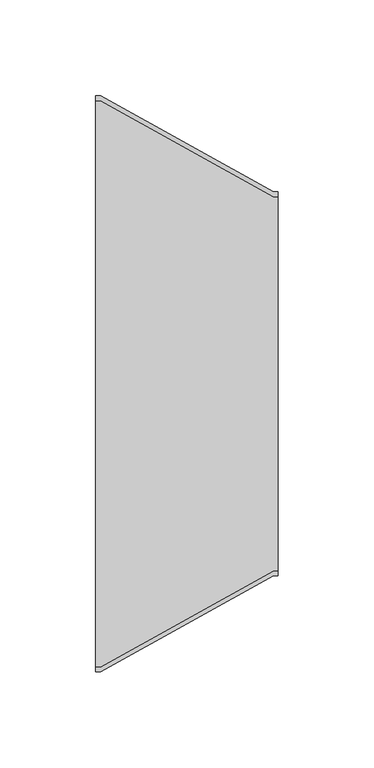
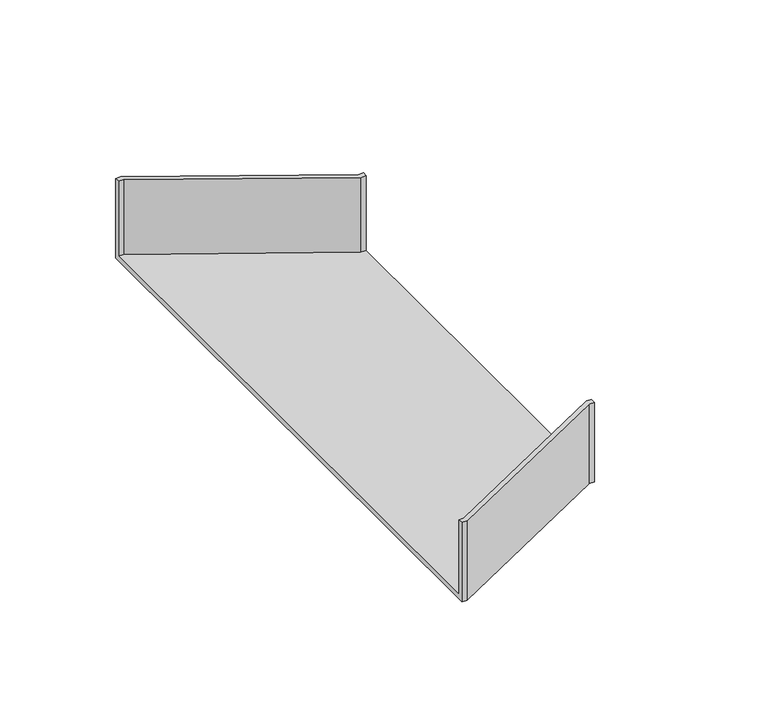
"""IFC4 building model written with IfcOpenShell, lengths in millimetres: cable carrier fitting geometry, BAKS_Reducer : RK(S/L/P)L_H42."""

from ifc_helpers import new_model, si_unit, origin, place, context, project, spatial, faceted_brep, source, transform, mapped, element, save


def cable_carrier_fitting_94ef316f(model_context):
    return source(origin(), model_context, "Body", "Brep", [
        faceted_brep([(0.0, -150.0, -21.0), (0.0, -150.0, 21.0), (0.0, -147.46, 21.0), (0.0, -147.46, -18.46), (0.0, 147.46, -18.46), (0.0, 147.46, 21.0), (0.0, 150.0, 21.0), (0.0, 150.0, -21.0), (95.0, -100.0, -21.0), (95.0, 100.0, -21.0), (95.0, 100.0, 21.0), (95.0, 97.46, 21.0), (95.0, 97.46, -18.46), (95.0, -97.46, -18.46), (95.0, -97.46, 21.0), (95.0, -100.0, 21.0), (2.5, -150.0, -21.0), (2.5, -150.0, 21.0), (92.5, -100.0, 21.0), (92.5, -97.46, 21.0), (2.5, -147.46, 21.0), (2.5, -147.46, -18.46), (92.5, -97.46, -18.46), (92.5, 97.46, -18.46), (2.5, 147.46, -18.46), (2.5, 147.46, 21.0), (92.5, 97.46, 21.0), (92.5, 100.0, 21.0), (2.5, 150.0, 21.0), (2.5, 150.0, -21.0), (92.5, 100.0, -21.0), (92.5, -100.0, -21.0)], [[[0, 1, 2, 3, 4, 5, 6, 7]], [[8, 9, 10, 11, 12, 13, 14, 15]], [[1, 0, 16, 17]], [[2, 1, 17, 18, 15, 14, 19, 20]], [[3, 2, 20, 21]], [[4, 3, 21, 22, 13, 12, 23, 24]], [[5, 4, 24, 25]], [[6, 5, 25, 26, 11, 10, 27, 28]], [[7, 6, 28, 29]], [[0, 7, 29, 30, 9, 8, 31, 16]], [[8, 15, 18, 31]], [[14, 13, 22, 19]], [[12, 11, 26, 23]], [[10, 9, 30, 27]], [[30, 29, 28, 27]], [[26, 25, 24, 23]], [[22, 21, 20, 19]], [[16, 31, 18, 17]]]),
    ])


if __name__ == "__main__":
    model = new_model("IFC4")
    model_context = context("Model", 3, world=origin())
    ifc_project = project(units=[si_unit("LENGTHUNIT", "METRE", prefix="MILLI")], contexts=[model_context])
    site = spatial("IfcSite", under=ifc_project)
    building = spatial("IfcBuilding", under=site)
    placement = place(None, origin())
    cable_carrier_fitting_shape = cable_carrier_fitting_94ef316f(model_context)
    element("IfcCableCarrierFitting", 1, ObjectType="BAKS_Reducer : RK(S/L/P)L_H42", at=placement, inside=building, context=model_context, shape_type="MappedRepresentation", body=[
        mapped(cable_carrier_fitting_shape, transform((0.0, 0.0, 0.0), x_axis=(1.0, 0.0, 0.0), y_axis=(0.0, 1.0, 0.0), z_axis=(0.0, 0.0, 1.0))),
    ])
    save(model, "model.ifc")
